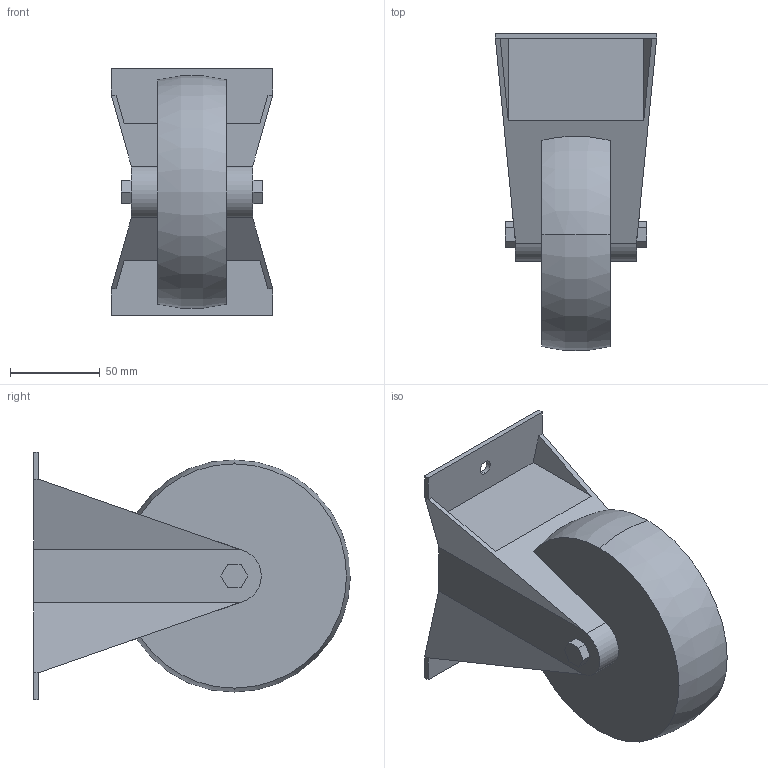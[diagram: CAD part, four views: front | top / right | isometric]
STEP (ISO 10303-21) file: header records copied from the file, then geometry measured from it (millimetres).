
FILE_DESCRIPTION (( 'STEP AP214' ), '1' );
FILE_NAME ('SK-130_SK-130VU.step', '2024-02-19T02:00:57', ( 'catia' ), ( 'HP Inc.' ), 'SwSTEP 2.0', 'SolidWorks 2021', '' );
FILE_SCHEMA (( 'AUTOMOTIVE_DESIGN' ));
Length unit declared in the file: millimetre
Products named in the file (1): SK-130_SK-130VU
Bounding box: 90 x 176.73 x 138 mm (x, y, z)
Volume: 904471.7 mm3; surface area: 80622.4 mm2
Topology: 1 solids, 1 shells, 48 faces, 128 edges, 84 vertices
Faces by surface type: plane 39, cylinder 6, torus 3
Entity records: 1544 total; most frequent: CARTESIAN_POINT 287, ORIENTED_EDGE 256, DIRECTION 244, EDGE_CURVE 128, VECTOR 106, LINE 106, VERTEX_POINT 84, AXIS2_PLACEMENT_3D 69
